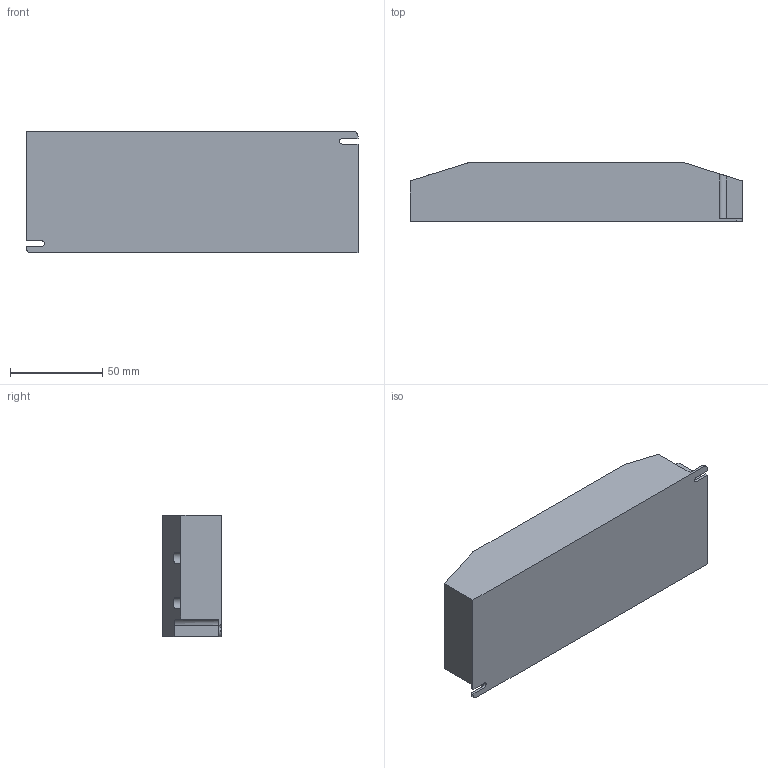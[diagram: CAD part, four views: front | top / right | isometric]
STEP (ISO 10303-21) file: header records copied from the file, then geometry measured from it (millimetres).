
FILE_DESCRIPTION (( 'STEP AP214' ), '1' );
FILE_NAME ('STRONG transformátor plochý pro LED 24V 100W_284624_3D.STEP', '2019-12-17T12:12:54', ( '' ), ( '' ), 'SwSTEP 2.0', 'SolidWorks 2019', '' );
FILE_SCHEMA (( 'AUTOMOTIVE_DESIGN' ));
Length unit declared in the file: millimetre
Products named in the file (1): STRONG transformátor plochý pro LED 24V 100W_284624_3D
Bounding box: 180 x 32 x 66 mm (x, y, z)
Volume: 353202.7 mm3; surface area: 37917.5 mm2
Topology: 1 solids, 1 shells, 48 faces, 128 edges, 84 vertices
Faces by surface type: plane 36, cylinder 12
Entity records: 1512 total; most frequent: CARTESIAN_POINT 279, ORIENTED_EDGE 256, DIRECTION 238, EDGE_CURVE 128, LINE 104, VECTOR 104, VERTEX_POINT 84, AXIS2_PLACEMENT_3D 67
